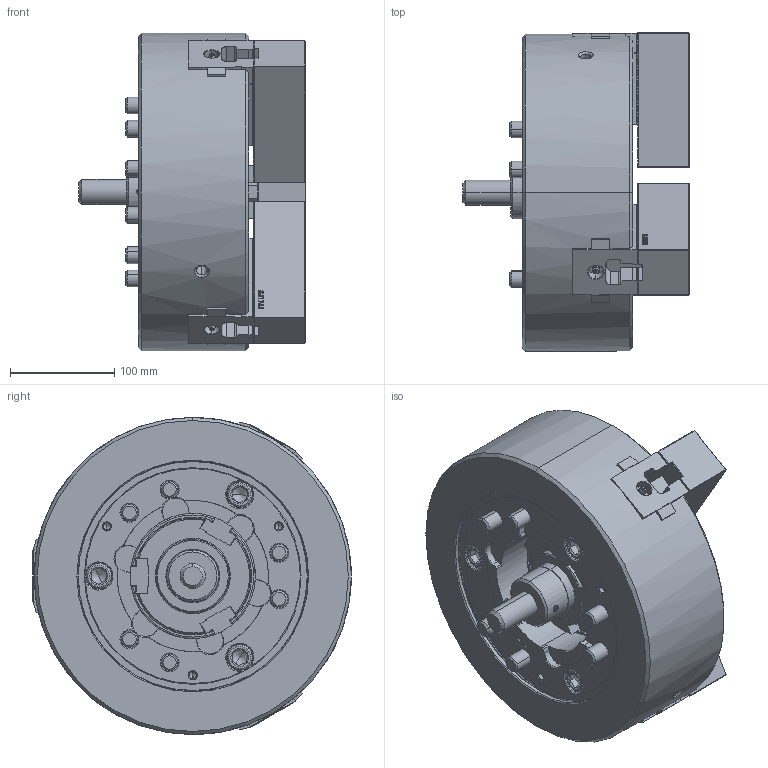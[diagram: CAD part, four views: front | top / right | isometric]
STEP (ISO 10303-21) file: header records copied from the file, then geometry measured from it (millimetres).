
FILE_DESCRIPTION (( 'STEP AP214' ), '1' );
FILE_NAME ('DT1_NL12_OUTSIDE_VIEW_UC.STEP', '2026-03-23T05:39:47', ( '' ), ( '' ), 'SwSTEP 2.0', 'SolidWorks 2022', '' );
FILE_SCHEMA (( 'AUTOMOTIVE_DESIGN' ));
Length unit declared in the file: millimetre
Products named in the file (11): DT1_NL12_BASE^DT1_NL12; DT1_NL12_DRAWSCREW^DT1_NL12; DT1_NL12_DN^DT1_NL12; DT1_NL12_M14x45^DT1_NL12; DT1_NL12_TNUT^DT1_NL12; DT1_NL12_SOFTJAW^DT1_NL12; DT1_NL12_M16x100^DT1_NL12; Copy of 61P413921^DT1_NL12; DT1_NL12_OUTSIDE_VIEW_UC; DT1_NL12_M5x12^DT1_NL12; DT1_NL12_COVER^DT1_NL12
Assembly tree (26 placements, depth 2):
  DT1_NL12_OUTSIDE_VIEW_UC
    DT1_NL12_SOFTJAW^DT1_NL12  x3
    DT1_NL12_TNUT^DT1_NL12  x3
    DT1_NL12_COVER^DT1_NL12
    DT1_NL12_DRAWSCREW^DT1_NL12
    Copy of 61P413921^DT1_NL12
    DT1_NL12_M16x100^DT1_NL12  x6
    DT1_NL12_M14x45^DT1_NL12  x6
    DT1_NL12_M5x12^DT1_NL12  x3
    DT1_NL12_DN^DT1_NL12
    DT1_NL12_BASE^DT1_NL12
Bounding box: 217 x 305.45 x 304 mm (x, y, z)
Volume: 8015215.7 mm3; surface area: 675539.5 mm2
Topology: 26 solids, 26 shells, 5188 faces, 14728 edges, 9646 vertices
Faces by surface type: plane 3746, cylinder 707, cone 436, bspline 225, torus 68, sphere 6
Entity records: 122374 total; most frequent: CARTESIAN_POINT 32360, ORIENTED_EDGE 20164, DIRECTION 16443, EDGE_CURVE 10082, LINE 7537, VECTOR 7537, VERTEX_POINT 6622, AXIS2_PLACEMENT_3D 4453
